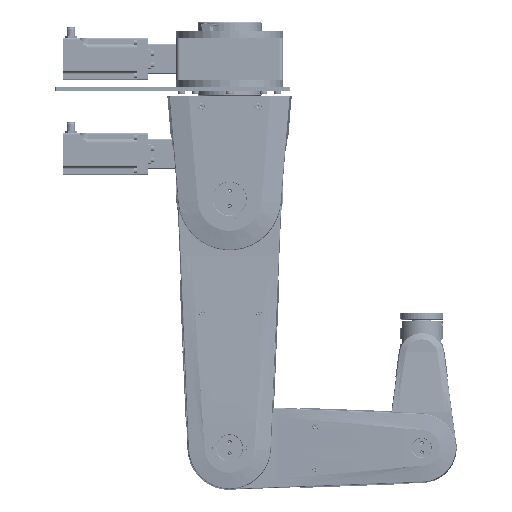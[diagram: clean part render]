
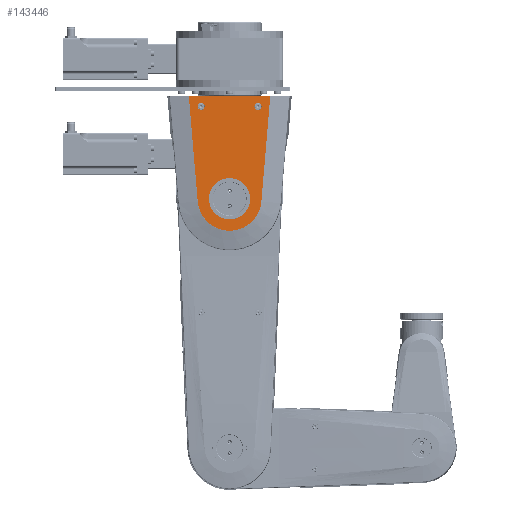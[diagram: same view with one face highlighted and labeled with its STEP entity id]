
A CAD part, front view. The second image highlights one B-rep face of the part: STEP entity #143446.
In plain terms, the highlighted planar face has unit normal (0, -1, 0) as drawn and (0, 1, 0) by its records, which use the part's own axes.
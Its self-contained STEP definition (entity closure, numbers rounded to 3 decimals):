
#13103=FACE_BOUND('',#37941,.T.);
#13104=FACE_BOUND('',#37942,.T.);
#13105=FACE_BOUND('',#37943,.T.);
#21379=CIRCLE('',#161323,44.901);
#21380=CIRCLE('',#161334,29.);
#21381=CIRCLE('',#161335,5.);
#21382=CIRCLE('',#161336,5.);
#21383=CIRCLE('',#161337,5.);
#21384=CIRCLE('',#161338,5.);
#29072=FACE_OUTER_BOUND('',#37940,.T.);
#37940=EDGE_LOOP('',(#130942,#130943,#130944,#130945));
#37941=EDGE_LOOP('',(#130946));
#37942=EDGE_LOOP('',(#130947,#130948));
#37943=EDGE_LOOP('',(#130949,#130950));
#46830=LINE('',#287938,#55689);
#46844=LINE('',#287988,#55703);
#46846=LINE('',#287997,#55705);
#55689=VECTOR('',#201990,10.);
#55703=VECTOR('',#202048,10.);
#55705=VECTOR('',#202060,10.);
#69373=VERTEX_POINT('',#287923);
#69376=VERTEX_POINT('',#287930);
#69391=VERTEX_POINT('',#287984);
#69393=VERTEX_POINT('',#287990);
#69405=VERTEX_POINT('',#288036);
#69406=VERTEX_POINT('',#288038);
#69407=VERTEX_POINT('',#288039);
#69408=VERTEX_POINT('',#288042);
#69409=VERTEX_POINT('',#288043);
#90025=EDGE_CURVE('',#69376,#69373,#46830,.T.);
#90051=EDGE_CURVE('',#69373,#69391,#46844,.T.);
#90054=EDGE_CURVE('',#69391,#69393,#21379,.T.);
#90056=EDGE_CURVE('',#69393,#69376,#46846,.T.);
#90078=EDGE_CURVE('',#69405,#69405,#21380,.T.);
#90079=EDGE_CURVE('',#69406,#69407,#21381,.T.);
#90080=EDGE_CURVE('',#69407,#69406,#21382,.T.);
#90081=EDGE_CURVE('',#69408,#69409,#21383,.T.);
#90082=EDGE_CURVE('',#69409,#69408,#21384,.T.);
#130942=ORIENTED_EDGE('',*,*,#90025,.F.);
#130943=ORIENTED_EDGE('',*,*,#90056,.F.);
#130944=ORIENTED_EDGE('',*,*,#90054,.F.);
#130945=ORIENTED_EDGE('',*,*,#90051,.F.);
#130946=ORIENTED_EDGE('',*,*,#90078,.T.);
#130947=ORIENTED_EDGE('',*,*,#90079,.T.);
#130948=ORIENTED_EDGE('',*,*,#90080,.T.);
#130949=ORIENTED_EDGE('',*,*,#90081,.T.);
#130950=ORIENTED_EDGE('',*,*,#90082,.T.);
#135970=PLANE('',#161333);
#143446=ADVANCED_FACE('',(#29072,#13103,#13104,#13105),#135970,.T.);
#161323=AXIS2_PLACEMENT_3D('',#287994,#202055,#202056);
#161333=AXIS2_PLACEMENT_3D('',#288035,#202096,#202097);
#161334=AXIS2_PLACEMENT_3D('',#288037,#202098,#202099);
#161335=AXIS2_PLACEMENT_3D('',#288040,#202100,#202101);
#161336=AXIS2_PLACEMENT_3D('',#288041,#202102,#202103);
#161337=AXIS2_PLACEMENT_3D('',#288044,#202104,#202105);
#161338=AXIS2_PLACEMENT_3D('',#288045,#202106,#202107);
#201990=DIRECTION('',(1.,0.,0.));
#202048=DIRECTION('',(-0.084,0.,0.996));
#202055=DIRECTION('center_axis',(0.,-1.,0.));
#202056=DIRECTION('ref_axis',(0.,0.,1.));
#202060=DIRECTION('',(-0.084,0.,-0.996));
#202096=DIRECTION('center_axis',(0.,1.,0.));
#202097=DIRECTION('ref_axis',(0.,0.,1.));
#202098=DIRECTION('center_axis',(0.,-1.,0.));
#202099=DIRECTION('ref_axis',(1.,0.,0.));
#202100=DIRECTION('center_axis',(0.,-1.,0.));
#202101=DIRECTION('ref_axis',(-1.,0.,0.));
#202102=DIRECTION('center_axis',(0.,-1.,0.));
#202103=DIRECTION('ref_axis',(-1.,0.,0.));
#202104=DIRECTION('center_axis',(0.,-1.,0.));
#202105=DIRECTION('ref_axis',(-1.,0.,0.));
#202106=DIRECTION('center_axis',(0.,-1.,0.));
#202107=DIRECTION('ref_axis',(-1.,0.,0.));
#287923=CARTESIAN_POINT('',(57.21,0.,-144.));
#287930=CARTESIAN_POINT('',(-57.21,0.,-144.));
#287938=CARTESIAN_POINT('',(-43.75,0.,-144.));
#287984=CARTESIAN_POINT('',(44.742,0.,3.775));
#287988=CARTESIAN_POINT('',(51.632,0.,-77.893));
#287990=CARTESIAN_POINT('',(-44.742,0.,3.775));
#287994=CARTESIAN_POINT('Origin',(0.,0.,0.));
#287997=CARTESIAN_POINT('',(-48.441,0.,-40.067));
#288035=CARTESIAN_POINT('Origin',(0.,0.,-58.872));
#288036=CARTESIAN_POINT('',(-29.,0.,0.));
#288037=CARTESIAN_POINT('Origin',(0.,0.,0.));
#288038=CARTESIAN_POINT('',(-45.,0.,-130.));
#288039=CARTESIAN_POINT('',(-35.,0.,-130.));
#288040=CARTESIAN_POINT('Origin',(-40.,0.,-130.));
#288041=CARTESIAN_POINT('Origin',(-40.,0.,-130.));
#288042=CARTESIAN_POINT('',(35.,0.,-130.));
#288043=CARTESIAN_POINT('',(45.,0.,-130.));
#288044=CARTESIAN_POINT('Origin',(40.,0.,-130.));
#288045=CARTESIAN_POINT('Origin',(40.,0.,-130.));
